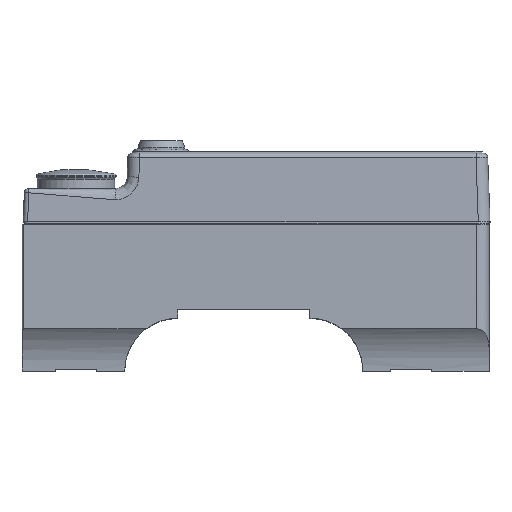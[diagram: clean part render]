
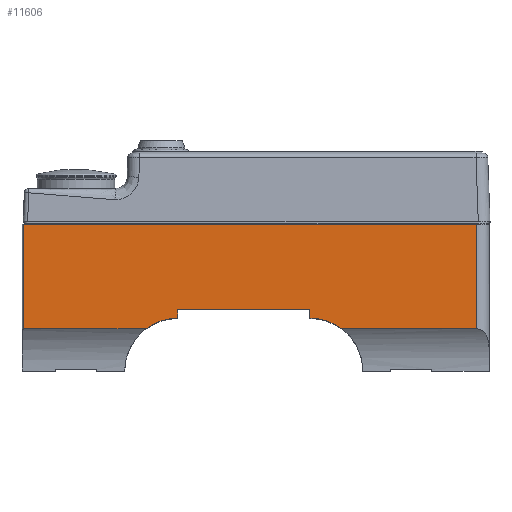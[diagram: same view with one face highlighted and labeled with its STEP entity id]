
A CAD part, top view. The second image highlights one B-rep face of the part: STEP entity #11606.
In plain terms, the highlighted planar face has unit normal (0, 0, 1).
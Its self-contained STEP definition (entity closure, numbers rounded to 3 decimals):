
#182=CIRCLE('',#12155,18.);
#189=CIRCLE('',#12168,18.);
#1020=FACE_OUTER_BOUND('',#1723,.T.);
#1723=EDGE_LOOP('',(#10099,#10100,#10101,#10102,#10103,#10104,#10105,#10106,
#10107,#10108));
#3090=LINE('',#19061,#4281);
#3175=LINE('',#19439,#4366);
#3176=LINE('',#19458,#4367);
#3184=LINE('',#19500,#4375);
#3192=LINE('',#19550,#4383);
#3201=LINE('',#19620,#4392);
#3203=LINE('',#19624,#4394);
#3205=LINE('',#19627,#4396);
#4281=VECTOR('',#14043,10.);
#4366=VECTOR('',#14270,10.);
#4367=VECTOR('',#14273,10.);
#4375=VECTOR('',#14301,10.);
#4383=VECTOR('',#14321,10.);
#4392=VECTOR('',#14420,10.);
#4394=VECTOR('',#14424,10.);
#4396=VECTOR('',#14428,10.);
#5367=VERTEX_POINT('',#19058);
#5368=VERTEX_POINT('',#19060);
#5446=VERTEX_POINT('',#19438);
#5447=VERTEX_POINT('',#19457);
#5459=VERTEX_POINT('',#19498);
#5471=VERTEX_POINT('',#19537);
#5476=VERTEX_POINT('',#19563);
#5478=VERTEX_POINT('',#19580);
#5487=VERTEX_POINT('',#19619);
#5488=VERTEX_POINT('',#19623);
#6874=EDGE_CURVE('',#5368,#5367,#3090,.T.);
#6988=EDGE_CURVE('',#5368,#5446,#3175,.T.);
#6990=EDGE_CURVE('',#5447,#5446,#3176,.T.);
#7006=EDGE_CURVE('',#5459,#5367,#3184,.T.);
#7020=EDGE_CURVE('',#5459,#5471,#3192,.T.);
#7027=EDGE_CURVE('',#5476,#5447,#182,.T.);
#7037=EDGE_CURVE('',#5471,#5478,#189,.T.);
#7050=EDGE_CURVE('',#5487,#5476,#3201,.T.);
#7052=EDGE_CURVE('',#5488,#5487,#3203,.T.);
#7054=EDGE_CURVE('',#5478,#5488,#3205,.T.);
#10099=ORIENTED_EDGE('',*,*,#6988,.F.);
#10100=ORIENTED_EDGE('',*,*,#6874,.T.);
#10101=ORIENTED_EDGE('',*,*,#7006,.F.);
#10102=ORIENTED_EDGE('',*,*,#7020,.T.);
#10103=ORIENTED_EDGE('',*,*,#7037,.T.);
#10104=ORIENTED_EDGE('',*,*,#7054,.T.);
#10105=ORIENTED_EDGE('',*,*,#7052,.T.);
#10106=ORIENTED_EDGE('',*,*,#7050,.T.);
#10107=ORIENTED_EDGE('',*,*,#7027,.T.);
#10108=ORIENTED_EDGE('',*,*,#6990,.T.);
#10811=PLANE('',#12199);
#11606=ADVANCED_FACE('',(#1020),#10811,.T.);
#12155=AXIS2_PLACEMENT_3D('',#19564,#14334,#14335);
#12168=AXIS2_PLACEMENT_3D('',#19582,#14363,#14364);
#12199=AXIS2_PLACEMENT_3D('',#19629,#14431,#14432);
#14043=DIRECTION('',(-1.,0.,0.));
#14270=DIRECTION('',(0.,-1.,0.));
#14273=DIRECTION('',(1.,0.,0.));
#14301=DIRECTION('',(0.,1.,0.));
#14321=DIRECTION('',(1.,0.,0.));
#14334=DIRECTION('center_axis',(0.,0.,-1.));
#14335=DIRECTION('ref_axis',(1.,0.,0.));
#14363=DIRECTION('center_axis',(0.,0.,-1.));
#14364=DIRECTION('ref_axis',(0.,1.,0.));
#14420=DIRECTION('',(0.,-1.,0.));
#14424=DIRECTION('',(1.,0.,0.));
#14428=DIRECTION('',(0.,1.,0.));
#14431=DIRECTION('center_axis',(0.,0.,1.));
#14432=DIRECTION('ref_axis',(1.,0.,0.));
#19058=CARTESIAN_POINT('',(0.5,0.,18.75));
#19060=CARTESIAN_POINT('',(154.7,0.,18.75));
#19061=CARTESIAN_POINT('',(0.,0.,18.75));
#19438=CARTESIAN_POINT('',(154.7,-35.554,18.75));
#19439=CARTESIAN_POINT('',(154.7,-36.066,18.75));
#19457=CARTESIAN_POINT('',(108.738,-35.554,18.75));
#19458=CARTESIAN_POINT('',(0.,-35.554,18.75));
#19498=CARTESIAN_POINT('',(0.5,-35.554,18.75));
#19500=CARTESIAN_POINT('',(0.5,-11.066,18.75));
#19537=CARTESIAN_POINT('',(42.262,-35.554,18.75));
#19550=CARTESIAN_POINT('',(0.,-35.554,18.75));
#19563=CARTESIAN_POINT('',(98.,-32.,18.75));
#19564=CARTESIAN_POINT('Origin',(98.,-50.,18.75));
#19580=CARTESIAN_POINT('',(53.,-32.,18.75));
#19582=CARTESIAN_POINT('Origin',(53.,-50.,18.75));
#19619=CARTESIAN_POINT('',(98.,-29.1,18.75));
#19620=CARTESIAN_POINT('',(98.,-32.,18.75));
#19623=CARTESIAN_POINT('',(53.,-29.1,18.75));
#19624=CARTESIAN_POINT('',(98.,-29.1,18.75));
#19627=CARTESIAN_POINT('',(53.,-29.1,18.75));
#19629=CARTESIAN_POINT('Origin',(79.386,-22.132,18.75));
